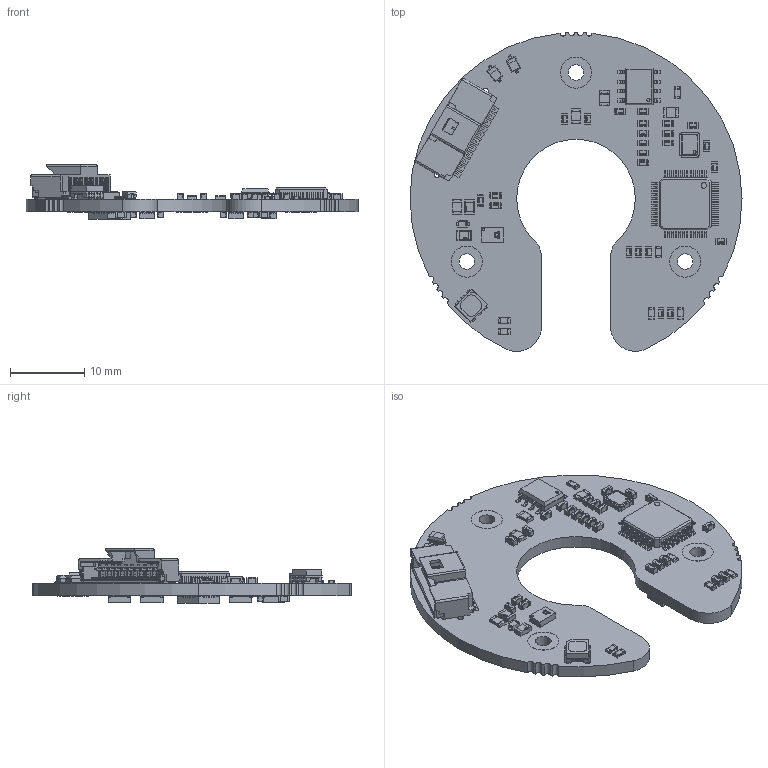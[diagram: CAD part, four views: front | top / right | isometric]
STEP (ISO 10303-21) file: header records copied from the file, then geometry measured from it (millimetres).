
FILE_DESCRIPTION (( 'STEP AP203' ), '1' );
FILE_NAME ('Orbis_fi16_MT_v02_new_s_padi.STEP', '2019-12-06T11:59:09', ( '' ), ( '' ), 'SwSTEP 2.0', 'SolidWorks 2016', '' );
FILE_SCHEMA (( 'CONFIG_CONTROL_DESIGN' ));
Products named in the file (1): Orbis_fi16_MT_v02_new_s_padi
Bounding box: 44.8 x 43.02 x 7.39 mm (x, y, z)
Volume: 2390.9 mm3; surface area: 4424.2 mm2
Topology: 220 solids, 220 shells, 8338 faces, 20519 edges, 12776 vertices
Faces by surface type: plane 4436, bspline 2565, cylinder 1245, cone 92
Entity records: 374061 total; most frequent: CARTESIAN_POINT 196699, ORIENTED_EDGE 40494, DIRECTION 28471, EDGE_CURVE 20247, VECTOR 12975, LINE 12975, VERTEX_POINT 12776, EDGE_LOOP 8869
